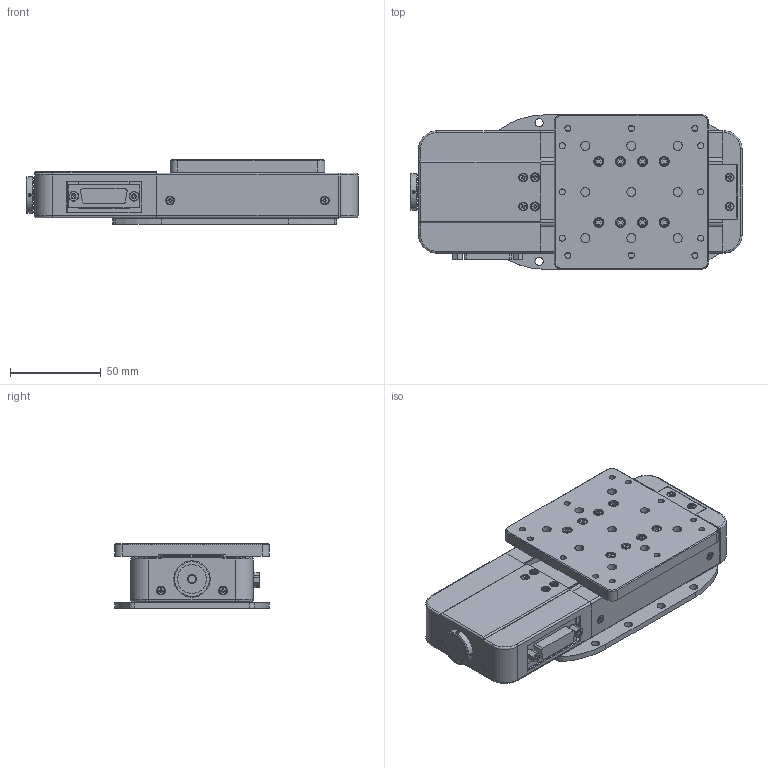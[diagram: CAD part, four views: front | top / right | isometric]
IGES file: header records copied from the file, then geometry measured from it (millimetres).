
Global section: file name: No Iges File Name specified; native system: AutoDesk Inventor R12.0; preprocessor: AutoDesk Inventor Iges Exporter R12.0; date: 20140320.172511; units: millimetre
Bounding box: 182.6 x 85 x 35.7 mm (x, y, z)
Volume: 209413.4 mm3; surface area: 142196.4 mm2
Topology: 2 solids, 67 shells, 2558 faces, 6437 edges, 4057 vertices
Faces by surface type: plane 1327, bspline 453, cylinder 380, cone 228, revolution 149, torus 20, sphere 1
Full cylindrical faces by diameter (mm): 12 x1
